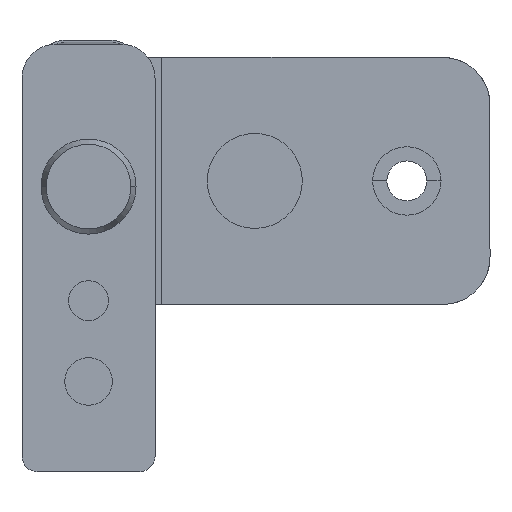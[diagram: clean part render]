
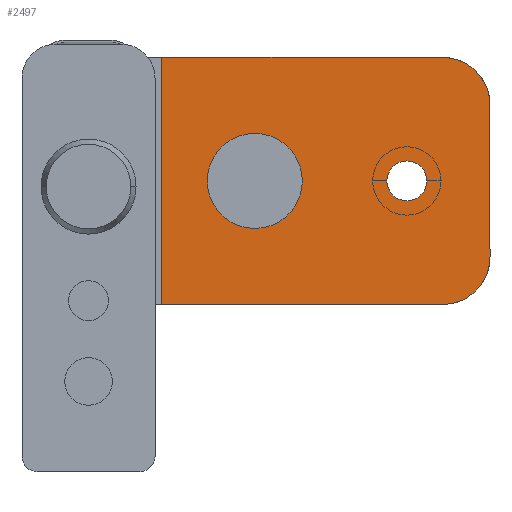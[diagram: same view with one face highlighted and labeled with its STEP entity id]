
A CAD part, front view. The second image highlights one B-rep face of the part: STEP entity #2497.
In plain terms, the highlighted planar face has unit normal (0, -1, 0).
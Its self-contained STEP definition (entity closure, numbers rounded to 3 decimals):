
#18 = VERTEX_POINT ( 'NONE', #1000 ) ;
#45 = VERTEX_POINT ( 'NONE', #739 ) ;
#47 = VERTEX_POINT ( 'NONE', #741 ) ;
#172 = PLANE ( 'NONE',  #4216 ) ;
#173 = CARTESIAN_POINT ( 'NONE',  ( 42.25, 547., 13.6 ) ) ;
#174 = DIRECTION ( 'NONE',  ( 0., 1., 0. ) ) ;
#175 = DIRECTION ( 'NONE',  ( 1., 0., 0. ) ) ;
#356 = CARTESIAN_POINT ( 'NONE',  ( 35.6, 547., 0.6 ) ) ;
#377 = CARTESIAN_POINT ( 'NONE',  ( 42.25, 547., 13.6 ) ) ;
#378 = DIRECTION ( 'NONE',  ( 0., 0., -1. ) ) ;
#412 = EDGE_CURVE ( 'NONE', #18, #1388, #844, .T. ) ;
#612 = CARTESIAN_POINT ( 'NONE',  ( 33.5, 547., 0.6 ) ) ;
#613 = DIRECTION ( 'NONE',  ( 0., -1., 0. ) ) ;
#614 = DIRECTION ( 'NONE',  ( 1., 0., 0. ) ) ;
#739 = CARTESIAN_POINT ( 'NONE',  ( 37.25, 547., -12.4 ) ) ;
#741 = CARTESIAN_POINT ( 'NONE',  ( 37.25, 547., 13.6 ) ) ;
#839 = VECTOR ( 'NONE', #378, 1000. ) ;
#844 = LINE ( 'NONE', #377, #839 ) ;
#1000 = CARTESIAN_POINT ( 'NONE',  ( 42.25, 547., 8.6 ) ) ;
#1166 = CARTESIAN_POINT ( 'NONE',  ( 37.25, 547., -7.4 ) ) ;
#1167 = DIRECTION ( 'NONE',  ( 0., 1., 0. ) ) ;
#1168 = DIRECTION ( 'NONE',  ( 1., 0., 0. ) ) ;
#1180 = CARTESIAN_POINT ( 'NONE',  ( 42.25, 547., 13.6 ) ) ;
#1181 = DIRECTION ( 'NONE',  ( -1., 0., 0. ) ) ;
#1186 = CARTESIAN_POINT ( 'NONE',  ( 33.5, 547., 0.6 ) ) ;
#1187 = DIRECTION ( 'NONE',  ( 0., -1., 0. ) ) ;
#1188 = DIRECTION ( 'NONE',  ( 1., 0., 0. ) ) ;
#1189 = CARTESIAN_POINT ( 'NONE',  ( 37.25, 547., 8.6 ) ) ;
#1190 = DIRECTION ( 'NONE',  ( 0., 1., 0. ) ) ;
#1191 = DIRECTION ( 'NONE',  ( 1., 0., 0. ) ) ;
#1192 = CARTESIAN_POINT ( 'NONE',  ( 7.7, 547., 13.6 ) ) ;
#1193 = DIRECTION ( 'NONE',  ( 0., 0., -1. ) ) ;
#1194 = CARTESIAN_POINT ( 'NONE',  ( 42.25, 547., -12.4 ) ) ;
#1195 = DIRECTION ( 'NONE',  ( -1., 0., 0. ) ) ;
#1272 = ORIENTED_EDGE ( 'NONE', *, *, #3777, .F. ) ;
#1276 = ORIENTED_EDGE ( 'NONE', *, *, #2231, .F. ) ;
#1293 = ORIENTED_EDGE ( 'NONE', *, *, #412, .F. ) ;
#1295 = ORIENTED_EDGE ( 'NONE', *, *, #2232, .F. ) ;
#1296 = ORIENTED_EDGE ( 'NONE', *, *, #2228, .T. ) ;
#1326 = ORIENTED_EDGE ( 'NONE', *, *, #2233, .T. ) ;
#1328 = ORIENTED_EDGE ( 'NONE', *, *, #2234, .F. ) ;
#1330 = ORIENTED_EDGE ( 'NONE', *, *, #2222, .F. ) ;
#1350 = VERTEX_POINT ( 'NONE', #356 ) ;
#1381 = VERTEX_POINT ( 'NONE', #1451 ) ;
#1388 = VERTEX_POINT ( 'NONE', #3814 ) ;
#1401 = VERTEX_POINT ( 'NONE', #3827 ) ;
#1451 = CARTESIAN_POINT ( 'NONE',  ( 7.7, 547., 13.6 ) ) ;
#1934 = CARTESIAN_POINT ( 'NONE',  ( 31.4, 547., 0.6 ) ) ;
#2141 = EDGE_LOOP ( 'NONE', ( #1293, #1295, #1296, #1326, #1328, #1330 ) ) ;
#2209 = VERTEX_POINT ( 'NONE', #1934 ) ;
#2222 = EDGE_CURVE ( 'NONE', #1388, #45, #2609, .T. ) ;
#2228 = EDGE_CURVE ( 'NONE', #47, #1381, #2618, .T. ) ;
#2231 = EDGE_CURVE ( 'NONE', #2209, #1350, #2624, .T. ) ;
#2232 = EDGE_CURVE ( 'NONE', #47, #18, #2626, .T. ) ;
#2233 = EDGE_CURVE ( 'NONE', #1381, #1401, #2625, .T. ) ;
#2234 = EDGE_CURVE ( 'NONE', #45, #1401, #2628, .T. ) ;
#2497 = ADVANCED_FACE ( 'NONE', ( #2741, #2742 ), #172, .F. ) ;
#2609 = CIRCLE ( 'NONE', #4162, 5. ) ;
#2618 = LINE ( 'NONE', #1180, #2619 ) ;
#2619 = VECTOR ( 'NONE', #1181, 1000. ) ;
#2624 = CIRCLE ( 'NONE', #4164, 2.1 ) ;
#2625 = LINE ( 'NONE', #1192, #2627 ) ;
#2626 = CIRCLE ( 'NONE', #4165, 5. ) ;
#2627 = VECTOR ( 'NONE', #1193, 1000. ) ;
#2628 = LINE ( 'NONE', #1194, #2629 ) ;
#2629 = VECTOR ( 'NONE', #1195, 1000. ) ;
#2741 = FACE_BOUND ( 'NONE', #4537, .T. ) ;
#2742 = FACE_OUTER_BOUND ( 'NONE', #2141, .T. ) ;
#2934 = CIRCLE ( 'NONE', #4311, 2.1 ) ;
#3777 = EDGE_CURVE ( 'NONE', #1350, #2209, #2934, .T. ) ;
#3814 = CARTESIAN_POINT ( 'NONE',  ( 42.25, 547., -7.4 ) ) ;
#3827 = CARTESIAN_POINT ( 'NONE',  ( 7.7, 547., -12.4 ) ) ;
#4162 = AXIS2_PLACEMENT_3D ( 'NONE', #1166, #1167, #1168 ) ;
#4164 = AXIS2_PLACEMENT_3D ( 'NONE', #1186, #1187, #1188 ) ;
#4165 = AXIS2_PLACEMENT_3D ( 'NONE', #1189, #1190, #1191 ) ;
#4216 = AXIS2_PLACEMENT_3D ( 'NONE', #173, #174, #175 ) ;
#4311 = AXIS2_PLACEMENT_3D ( 'NONE', #612, #613, #614 ) ;
#4537 = EDGE_LOOP ( 'NONE', ( #1272, #1276 ) ) ;
